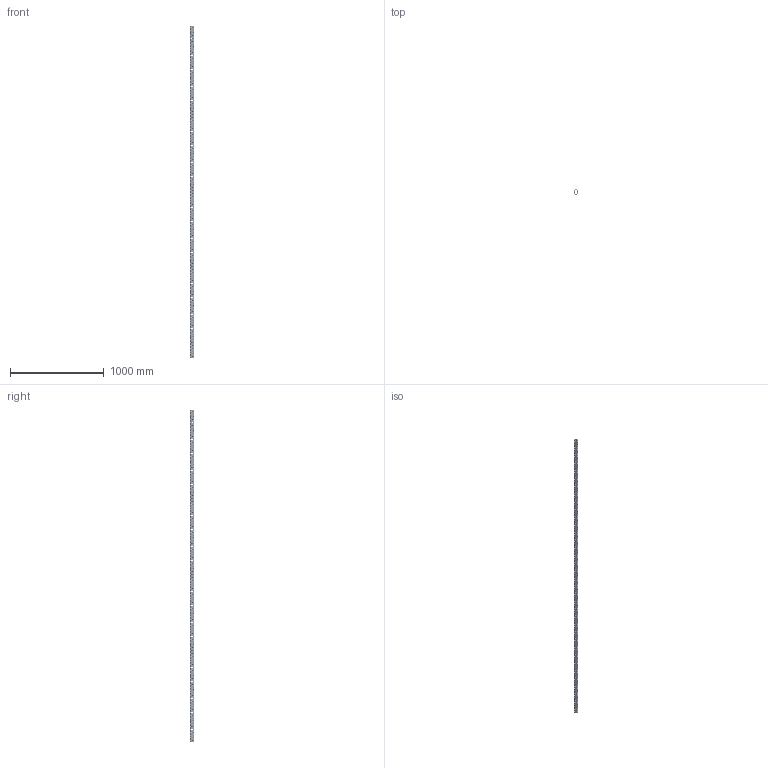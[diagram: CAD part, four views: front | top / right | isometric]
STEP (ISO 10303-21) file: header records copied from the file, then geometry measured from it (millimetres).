
FILE_DESCRIPTION(('CATIA V5 STEP Exchange'),'2;1');
FILE_NAME('U:\Room\唐宝山\EGT002\46-01-010347-01-EGT002-3538.stp','2021-08-24T09:44:28+00:00',('none'),('none'),'CATIA Version 5 Release 21 GA (IN-10)','CATIA V5 STEP AP203','none');
FILE_SCHEMA(('CONFIG_CONTROL_DESIGN'));
Products named in the file (1): 46-01-010347-01-EGT002-3538
Bounding box: 50 x 50 x 3538 mm (x, y, z)
Volume: 2521004.3 mm3; surface area: 1214020.7 mm2
Topology: 1 solids, 1 shells, 4804 faces, 13226 edges, 8188 vertices
Faces by surface type: cone 2832, cylinder 1946, plane 26
Entity records: 195010 total; most frequent: CARTESIAN_POINT 78431, ORIENTED_EDGE 26452, DIRECTION 18859, EDGE_CURVE 13226, AXIS2_PLACEMENT_3D 8970, VERTEX_POINT 8188, EDGE_LOOP 6458, VECTOR 5086
